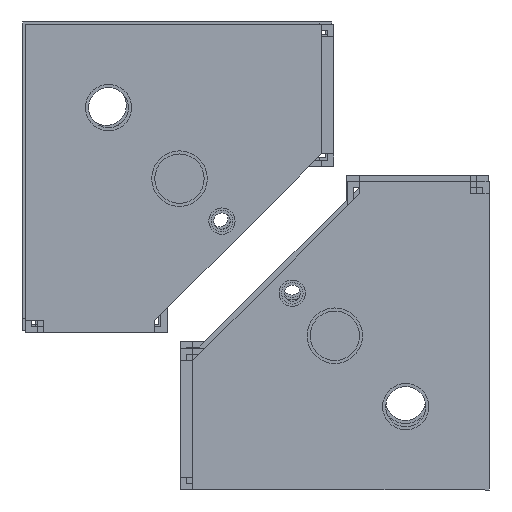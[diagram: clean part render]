
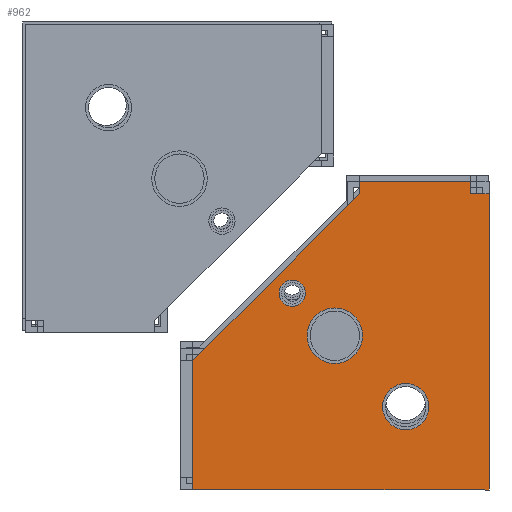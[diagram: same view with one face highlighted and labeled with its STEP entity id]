
A CAD part, front view. The second image highlights one B-rep face of the part: STEP entity #962.
In plain terms, the highlighted planar face has unit normal (0, -1, 0).
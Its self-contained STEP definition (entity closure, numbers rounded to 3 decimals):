
#13 = DIRECTION ( 'NONE',  ( -1., 0., 0. ) ) ;
#53 = FACE_OUTER_BOUND ( 'NONE', #878, .T. ) ;
#127 = CARTESIAN_POINT ( 'NONE',  ( -188.882, -2.25, 0. ) ) ;
#213 = CARTESIAN_POINT ( 'NONE',  ( -238.882, -2.25, -59. ) ) ;
#258 = DIRECTION ( 'NONE',  ( 0., -1., 0. ) ) ;
#337 = VECTOR ( 'NONE', #902, 1000. ) ;
#448 = DIRECTION ( 'NONE',  ( 1., 0., 0. ) ) ;
#598 = DIRECTION ( 'NONE',  ( -1., 0., 0. ) ) ;
#643 = VERTEX_POINT ( 'NONE', #5181 ) ;
#653 = DIRECTION ( 'NONE',  ( -1., 0., 0. ) ) ;
#656 = CIRCLE ( 'NONE', #4872, 4.25 ) ;
#680 = DIRECTION ( 'NONE',  ( 0., -1., 0. ) ) ;
#727 = DIRECTION ( 'NONE',  ( 0., 0., 1. ) ) ;
#750 = CARTESIAN_POINT ( 'NONE',  ( -192.882, -2.25, 0. ) ) ;
#836 = DIRECTION ( 'NONE',  ( 0., 0., -1. ) ) ;
#852 = CARTESIAN_POINT ( 'NONE',  ( -246.882, -2.25, -100. ) ) ;
#863 = VERTEX_POINT ( 'NONE', #5286 ) ;
#878 = EDGE_LOOP ( 'NONE', ( #4577, #3926, #3654, #2605, #1769, #4049, #2538, #4359, #4676, #1409 ) ) ;
#902 = DIRECTION ( 'NONE',  ( -0.707, 0., -0.707 ) ) ;
#928 = DIRECTION ( 'NONE',  ( 0., -1., 0. ) ) ;
#954 = VERTEX_POINT ( 'NONE', #4206 ) ;
#962 = ADVANCED_FACE ( 'NONE', ( #1734, #3327, #4612, #53 ), #5044, .F. ) ;
#985 = CARTESIAN_POINT ( 'NONE',  ( -238.882, -2.25, -50. ) ) ;
#999 = VERTEX_POINT ( 'NONE', #3729 ) ;
#1027 = CIRCLE ( 'NONE', #2588, 9. ) ;
#1031 = CARTESIAN_POINT ( 'NONE',  ( -246.882, -2.25, -96. ) ) ;
#1050 = CARTESIAN_POINT ( 'NONE',  ( -282.882, -2.25, -96. ) ) ;
#1096 = ORIENTED_EDGE ( 'NONE', *, *, #1330, .F. ) ;
#1166 = AXIS2_PLACEMENT_3D ( 'NONE', #4362, #258, #598 ) ;
#1253 = VECTOR ( 'NONE', #836, 1000. ) ;
#1311 = CARTESIAN_POINT ( 'NONE',  ( -246.882, -2.25, -96. ) ) ;
#1330 = EDGE_CURVE ( 'NONE', #3495, #3049, #1584, .T. ) ;
#1406 = CARTESIAN_POINT ( 'NONE',  ( -246.882, -2.25, -100. ) ) ;
#1409 = ORIENTED_EDGE ( 'NONE', *, *, #4955, .T. ) ;
#1442 = DIRECTION ( 'NONE',  ( -1., 0., 0. ) ) ;
#1455 = VERTEX_POINT ( 'NONE', #4597 ) ;
#1584 = CIRCLE ( 'NONE', #4082, 4.25 ) ;
#1614 = CARTESIAN_POINT ( 'NONE',  ( -192.882, -2.25, -42. ) ) ;
#1629 = VECTOR ( 'NONE', #2263, 1000. ) ;
#1706 = DIRECTION ( 'NONE',  ( 0., 1., 0. ) ) ;
#1734 = FACE_BOUND ( 'NONE', #2411, .T. ) ;
#1750 = EDGE_CURVE ( 'NONE', #3631, #3605, #4543, .T. ) ;
#1769 = ORIENTED_EDGE ( 'NONE', *, *, #3043, .F. ) ;
#1800 = EDGE_CURVE ( 'NONE', #5253, #2966, #3790, .T. ) ;
#1914 = LINE ( 'NONE', #4678, #5162 ) ;
#1927 = VERTEX_POINT ( 'NONE', #213 ) ;
#1977 = LINE ( 'NONE', #2465, #2423 ) ;
#2024 = CARTESIAN_POINT ( 'NONE',  ( -282.882, -2.25, -96. ) ) ;
#2225 = VERTEX_POINT ( 'NONE', #2928 ) ;
#2263 = DIRECTION ( 'NONE',  ( -1., 0., 0. ) ) ;
#2318 = EDGE_CURVE ( 'NONE', #2225, #1455, #4253, .T. ) ;
#2354 = EDGE_CURVE ( 'NONE', #1455, #2225, #4339, .T. ) ;
#2411 = EDGE_LOOP ( 'NONE', ( #4269, #3844 ) ) ;
#2423 = VECTOR ( 'NONE', #5304, 1000. ) ;
#2461 = LINE ( 'NONE', #1311, #337 ) ;
#2465 = CARTESIAN_POINT ( 'NONE',  ( -192.882, -2.25, -4. ) ) ;
#2538 = ORIENTED_EDGE ( 'NONE', *, *, #1750, .F. ) ;
#2540 = VECTOR ( 'NONE', #4163, 1000. ) ;
#2588 = AXIS2_PLACEMENT_3D ( 'NONE', #3805, #3373, #5015 ) ;
#2605 = ORIENTED_EDGE ( 'NONE', *, *, #4093, .F. ) ;
#2620 = DIRECTION ( 'NONE',  ( -1., 0., 0. ) ) ;
#2694 = EDGE_CURVE ( 'NONE', #999, #5255, #2918, .T. ) ;
#2703 = AXIS2_PLACEMENT_3D ( 'NONE', #127, #1706, #448 ) ;
#2802 = DIRECTION ( 'NONE',  ( 0., 0., -1. ) ) ;
#2807 = CARTESIAN_POINT ( 'NONE',  ( -225.112, -2.25, -63.77 ) ) ;
#2915 = EDGE_LOOP ( 'NONE', ( #1096, #3279 ) ) ;
#2918 = LINE ( 'NONE', #4991, #1253 ) ;
#2928 = CARTESIAN_POINT ( 'NONE',  ( -254.382, -2.25, -27. ) ) ;
#2966 = VERTEX_POINT ( 'NONE', #3268 ) ;
#3016 = CARTESIAN_POINT ( 'NONE',  ( -225.112, -2.25, -63.77 ) ) ;
#3032 = CARTESIAN_POINT ( 'NONE',  ( -282.882, -2.25, -96. ) ) ;
#3043 = EDGE_CURVE ( 'NONE', #863, #4744, #4415, .T. ) ;
#3049 = VERTEX_POINT ( 'NONE', #3666 ) ;
#3061 = EDGE_CURVE ( 'NONE', #3049, #3495, #656, .T. ) ;
#3201 = EDGE_CURVE ( 'NONE', #5255, #3631, #2461, .T. ) ;
#3268 = CARTESIAN_POINT ( 'NONE',  ( -288.882, -2.25, 0. ) ) ;
#3279 = ORIENTED_EDGE ( 'NONE', *, *, #3061, .F. ) ;
#3327 = FACE_BOUND ( 'NONE', #4635, .T. ) ;
#3373 = DIRECTION ( 'NONE',  ( 0., -1., 0. ) ) ;
#3411 = CARTESIAN_POINT ( 'NONE',  ( -188.882, -2.25, 0. ) ) ;
#3473 = VECTOR ( 'NONE', #2802, 1000. ) ;
#3491 = DIRECTION ( 'NONE',  ( 0., -1., 0. ) ) ;
#3495 = VERTEX_POINT ( 'NONE', #3731 ) ;
#3519 = CARTESIAN_POINT ( 'NONE',  ( -288.882, -2.25, 0. ) ) ;
#3578 = DIRECTION ( 'NONE',  ( -1., 0., 0. ) ) ;
#3605 = VERTEX_POINT ( 'NONE', #1406 ) ;
#3631 = VERTEX_POINT ( 'NONE', #1031 ) ;
#3654 = ORIENTED_EDGE ( 'NONE', *, *, #5226, .F. ) ;
#3666 = CARTESIAN_POINT ( 'NONE',  ( -225.112, -2.25, -59.52 ) ) ;
#3729 = CARTESIAN_POINT ( 'NONE',  ( -192.882, -2.25, -4. ) ) ;
#3731 = CARTESIAN_POINT ( 'NONE',  ( -225.112, -2.25, -68.02 ) ) ;
#3790 = LINE ( 'NONE', #3411, #2540 ) ;
#3798 = ORIENTED_EDGE ( 'NONE', *, *, #4282, .F. ) ;
#3805 = CARTESIAN_POINT ( 'NONE',  ( -238.882, -2.25, -50. ) ) ;
#3844 = ORIENTED_EDGE ( 'NONE', *, *, #2354, .F. ) ;
#3926 = ORIENTED_EDGE ( 'NONE', *, *, #4313, .F. ) ;
#3980 = LINE ( 'NONE', #3519, #4286 ) ;
#4010 = AXIS2_PLACEMENT_3D ( 'NONE', #5176, #680, #653 ) ;
#4049 = ORIENTED_EDGE ( 'NONE', *, *, #4376, .F. ) ;
#4082 = AXIS2_PLACEMENT_3D ( 'NONE', #2807, #4470, #13 ) ;
#4093 = EDGE_CURVE ( 'NONE', #4744, #5185, #4740, .T. ) ;
#4163 = DIRECTION ( 'NONE',  ( -1., 0., 0. ) ) ;
#4206 = CARTESIAN_POINT ( 'NONE',  ( -238.882, -2.25, -41. ) ) ;
#4253 = CIRCLE ( 'NONE', #1166, 7.5 ) ;
#4266 = DIRECTION ( 'NONE',  ( 0., 0., 1. ) ) ;
#4269 = ORIENTED_EDGE ( 'NONE', *, *, #2318, .F. ) ;
#4282 = EDGE_CURVE ( 'NONE', #1927, #954, #4373, .T. ) ;
#4286 = VECTOR ( 'NONE', #4266, 1000. ) ;
#4295 = LINE ( 'NONE', #4702, #1629 ) ;
#4313 = EDGE_CURVE ( 'NONE', #643, #2966, #3980, .T. ) ;
#4339 = CIRCLE ( 'NONE', #4010, 7.5 ) ;
#4359 = ORIENTED_EDGE ( 'NONE', *, *, #3201, .F. ) ;
#4362 = CARTESIAN_POINT ( 'NONE',  ( -261.882, -2.25, -27. ) ) ;
#4373 = CIRCLE ( 'NONE', #4901, 9. ) ;
#4376 = EDGE_CURVE ( 'NONE', #3605, #863, #4295, .T. ) ;
#4415 = LINE ( 'NONE', #2024, #5297 ) ;
#4470 = DIRECTION ( 'NONE',  ( 0., -1., 0. ) ) ;
#4543 = LINE ( 'NONE', #852, #3473 ) ;
#4548 = VECTOR ( 'NONE', #2620, 1000. ) ;
#4577 = ORIENTED_EDGE ( 'NONE', *, *, #1800, .T. ) ;
#4597 = CARTESIAN_POINT ( 'NONE',  ( -269.382, -2.25, -27. ) ) ;
#4612 = FACE_BOUND ( 'NONE', #2915, .T. ) ;
#4635 = EDGE_LOOP ( 'NONE', ( #3798, #5218 ) ) ;
#4676 = ORIENTED_EDGE ( 'NONE', *, *, #2694, .F. ) ;
#4678 = CARTESIAN_POINT ( 'NONE',  ( -188.882, -2.25, -96. ) ) ;
#4702 = CARTESIAN_POINT ( 'NONE',  ( -282.882, -2.25, -100. ) ) ;
#4740 = LINE ( 'NONE', #1050, #4548 ) ;
#4744 = VERTEX_POINT ( 'NONE', #3032 ) ;
#4777 = EDGE_CURVE ( 'NONE', #954, #1927, #1027, .T. ) ;
#4792 = CARTESIAN_POINT ( 'NONE',  ( -284.882, -2.25, -96. ) ) ;
#4872 = AXIS2_PLACEMENT_3D ( 'NONE', #3016, #928, #5052 ) ;
#4901 = AXIS2_PLACEMENT_3D ( 'NONE', #985, #3491, #1442 ) ;
#4955 = EDGE_CURVE ( 'NONE', #999, #5253, #1977, .T. ) ;
#4991 = CARTESIAN_POINT ( 'NONE',  ( -192.882, -2.25, -2. ) ) ;
#5015 = DIRECTION ( 'NONE',  ( -1., 0., 0. ) ) ;
#5044 = PLANE ( 'NONE',  #2703 ) ;
#5052 = DIRECTION ( 'NONE',  ( -1., 0., 0. ) ) ;
#5162 = VECTOR ( 'NONE', #3578, 1000. ) ;
#5176 = CARTESIAN_POINT ( 'NONE',  ( -261.882, -2.25, -27. ) ) ;
#5181 = CARTESIAN_POINT ( 'NONE',  ( -288.882, -2.25, -96. ) ) ;
#5185 = VERTEX_POINT ( 'NONE', #4792 ) ;
#5218 = ORIENTED_EDGE ( 'NONE', *, *, #4777, .F. ) ;
#5226 = EDGE_CURVE ( 'NONE', #5185, #643, #1914, .T. ) ;
#5253 = VERTEX_POINT ( 'NONE', #750 ) ;
#5255 = VERTEX_POINT ( 'NONE', #1614 ) ;
#5286 = CARTESIAN_POINT ( 'NONE',  ( -282.882, -2.25, -100. ) ) ;
#5297 = VECTOR ( 'NONE', #727, 1000. ) ;
#5304 = DIRECTION ( 'NONE',  ( 0., 0., 1. ) ) ;
